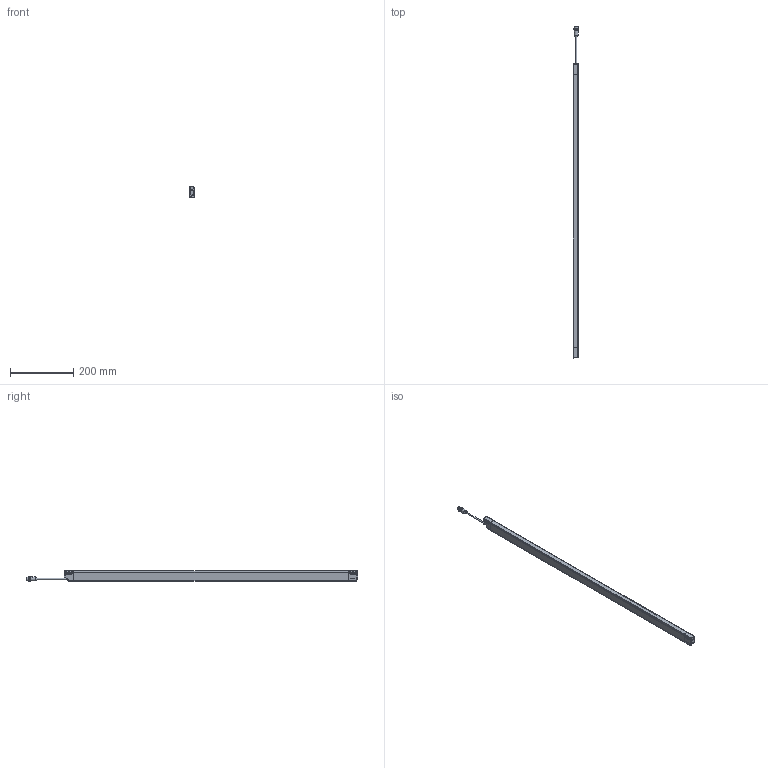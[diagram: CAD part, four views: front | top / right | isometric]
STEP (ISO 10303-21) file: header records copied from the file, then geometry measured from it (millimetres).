
FILE_DESCRIPTION(/* description */ (''),/* implementation_level */ '2;1');
FILE_NAME(/* name */ 'DSD-0646.stp',/* time_stamp */ '2015-02-23T17:44:49+01:00',/* author */ (''),/* organization */ (''),/* preprocessor_version */ 'ST-DEVELOPER v11',/* originating_system */ 'SIEMENS PLM Software NX 7.5',/* authorisation */ '');
FILE_SCHEMA (('AUTOMOTIVE_DESIGN { 1 0 10303 214 1 1 1 1 }'));
Length unit declared in the file: millimetre
Products named in the file (1): AP008168_00
Bounding box: 17.36 x 1050.24 x 33.46 mm (x, y, z)
Surface area: 115213.4 mm2 (no closed solid volume)
Topology: 0 solids, 39 shells, 1048 faces, 3618 edges, 2504 vertices
Faces by surface type: cylinder 395, plane 307, bspline 136, torus 112, sphere 67, cone 31
Full cylindrical faces by diameter (mm): 1 x5, 1.2 x2, 2.6 x6, 4 x1, 8.3 x1, 9.4 x1, 10.4 x1, 12 x1, 13 x1, 13.5 x1, 14.5 x2
Entity records: 45669 total; most frequent: CARTESIAN_POINT 15223, DIRECTION 6575, ORIENTED_EDGE 5610, EDGE_CURVE 3499, AXIS2_PLACEMENT_3D 2489, VERTEX_POINT 2472, LINE 1597, VECTOR 1597
